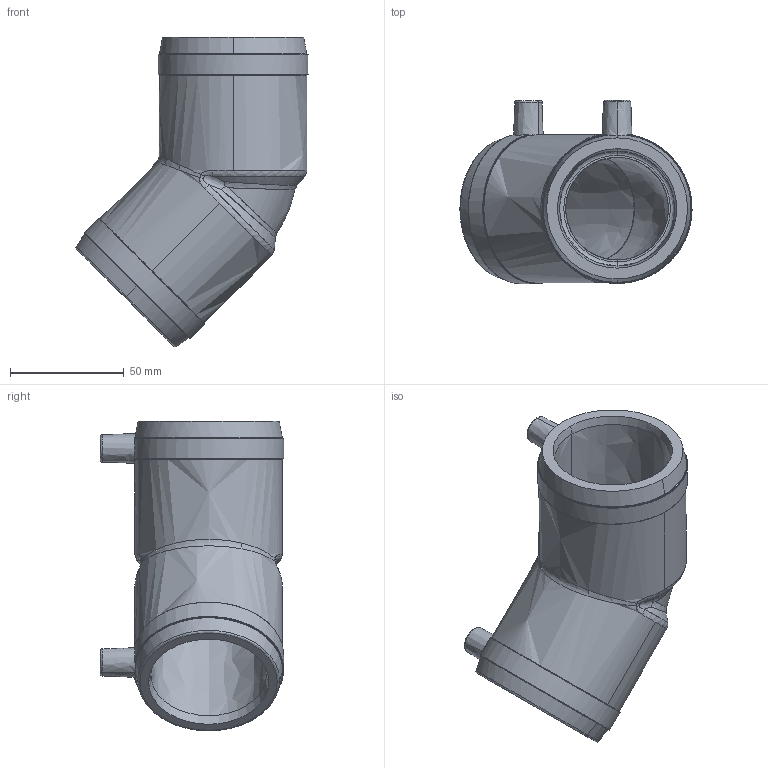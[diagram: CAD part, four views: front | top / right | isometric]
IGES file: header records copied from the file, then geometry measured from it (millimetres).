
Start section:  PTC IGES file: w45_d050_01.igs
Global section: file name: w45_d050_01.igs; native system: Pro/ENGINEER by Parametric Technology Corporation; preprocessor: 2011490; author: mtunjic; organization: Unknown; date: 20130812.112742; units: millimetre
Bounding box: 101.84 x 80.4 x 135.96 mm (x, y, z)
Surface area: 51470 mm2 (no closed solid volume)
Topology: 0 solids, 0 shells, 236 faces, 1176 edges, 1176 vertices
Faces by surface type: bspline 236
